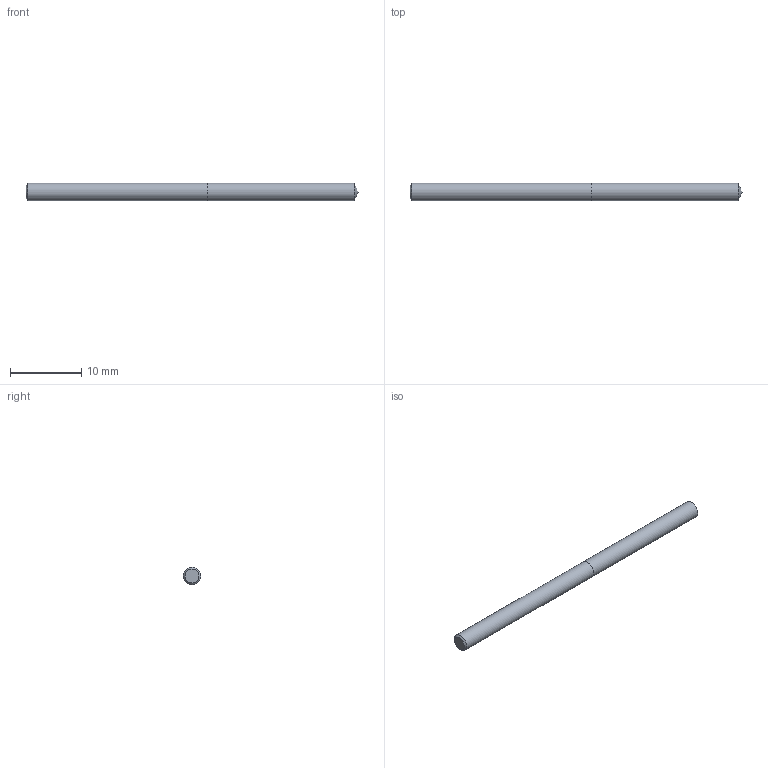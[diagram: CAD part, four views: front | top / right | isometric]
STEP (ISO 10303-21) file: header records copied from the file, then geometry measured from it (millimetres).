
FILE_DESCRIPTION (( 'STEP AP214' ), '1' );
FILE_NAME ('03-2383.STEP', '2022-06-03T07:01:55', ( 'USER' ), ( '' ), 'SwSTEP 2.0', 'SolidWorks 2018', '' );
FILE_SCHEMA (( 'AUTOMOTIVE_DESIGN' ));
Length unit declared in the file: inch
Products named in the file (1): 03-2383
Bounding box: 46.54 x 2.44 x 2.44 mm (x, y, z)
Volume: 215.6 mm3; surface area: 370.6 mm2
Topology: 2 solids, 2 shells, 7 faces, 11 edges, 7 vertices
Faces by surface type: plane 3, cylinder 2, cone 2
Full cylindrical faces by diameter (mm): 2.438 x2
Entity records: 214 total; most frequent: DIRECTION 26, CARTESIAN_POINT 18, AXIS2_PLACEMENT_3D 13, ORIENTED_EDGE 10, EDGE_LOOP 10, FACE_OUTER_BOUND 9, LENGTH_MEASURE_WITH_UNIT 7, DIMENSIONAL_EXPONENTS 7
